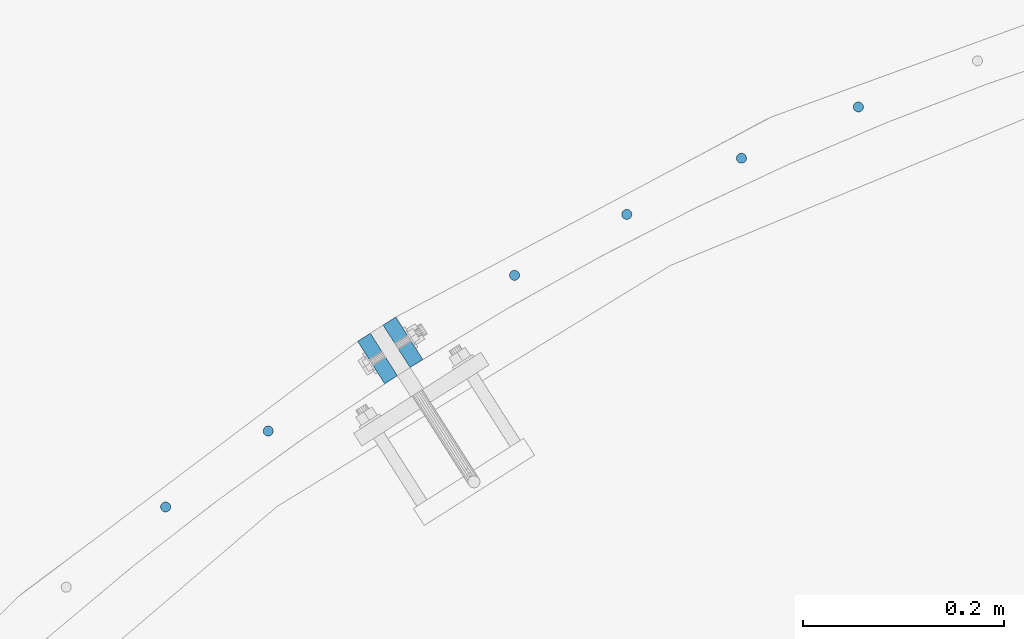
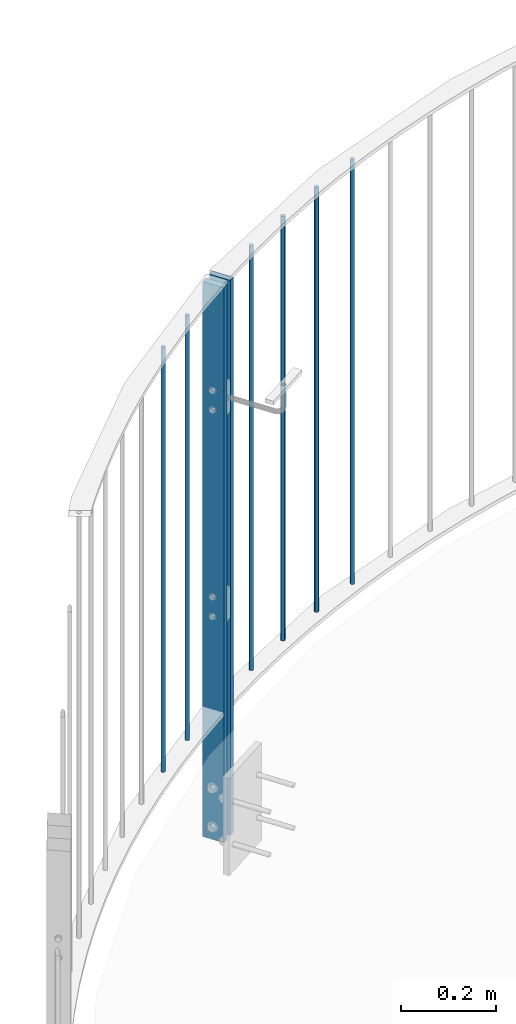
# One storey, part 70 of 296: 8 columns, 12 openings.
"""IFC2X3 building model written with IfcOpenShell, lengths in millimetres."""

import ifcopenshell
import ifcopenshell.guid

model = None  # the IFC model being written
_history = None  # IfcOwnerHistory: only IFC2X3 demands one
_inside = {}  # id of a spatial element -> (the spatial element, [elements in it])
_under = {}  # id of a project, library or spatial element -> (it, [spatial elements below it])
_declared = {}  # id of a project -> (the project, [libraries it declares])
_typed = {}  # id of a type object -> (the type object, [elements of that type])
_made_of = {}  # id of a material, layer set ... -> (it, [elements and type objects made of it])


def new_model(schema):
    """Start an empty IFC model of exactly this schema.

    Asked for "IFC4X3", IfcOpenShell would pick the latest addendum, in which some entities
    have other attributes; the version numbers below select the first issue.
    IFC2X3 requires an IfcOwnerHistory on every rooted entity: one is made here for all.
    """
    global model, _history
    if schema == "IFC4X3":
        model = ifcopenshell.file(schema_version=(4, 3, 0, 0))
    else:
        model = ifcopenshell.file(schema=schema)
    _inside.clear()
    _under.clear()
    _declared.clear()
    _typed.clear()
    _made_of.clear()
    _history = None
    if model.schema == "IFC2X3":
        org = make("IfcOrganization", Name="unknown")
        user = make(
            "IfcPersonAndOrganization",
            ThePerson=make("IfcPerson", FamilyName="unknown"),
            TheOrganization=org,
        )
        app = make(
            "IfcApplication",
            ApplicationDeveloper=org,
            Version="unknown",
            ApplicationFullName="unknown",
            ApplicationIdentifier="unknown",
        )
        _history = make(
            "IfcOwnerHistory",
            OwningUser=user,
            OwningApplication=app,
            ChangeAction="ADDED",
            CreationDate=0,
        )
    return model


def make(cls, **values):
    """One entity of the class cls with the attributes given. An attribute that is None is left unset."""
    return model.create_entity(
        cls, **{name: value for name, value in values.items() if value is not None}
    )


def entity(cls, *values):
    """Any entity or typed value of the class cls, its attributes in the order of the schema. None: left unset."""
    e = model.create_entity(cls)
    for i, value in enumerate(values):
        if value is not None:
            e[i] = value
    return e


def rooted(cls, **values):
    """An entity with a GlobalId (a new one), such as an element, a storey or a relation."""
    return make(cls, GlobalId=ifcopenshell.guid.new(), OwnerHistory=_history, **values)


def si_unit(unit_type, name, prefix=None):
    """IfcSIUnit, for example si_unit("LENGTHUNIT", "METRE", prefix="MILLI")."""
    return make("IfcSIUnit", UnitType=unit_type, Prefix=prefix, Name=name)


def converted_unit(unit_type, name, factor, base, dimensions=None, offset=None):
    """IfcConversionBasedUnit, such as the inch: factor (a typed value) times the base unit."""
    return make(
        "IfcConversionBasedUnit"
        if offset is None
        else "IfcConversionBasedUnitWithOffset",
        ConversionOffset=offset,
        Dimensions=None
        if dimensions is None
        else entity("IfcDimensionalExponents", *dimensions),
        UnitType=unit_type,
        Name=name,
        ConversionFactor=make(
            "IfcMeasureWithUnit", ValueComponent=factor, UnitComponent=base
        ),
    )


def assignment(units):
    """IfcUnitAssignment: the units of a project."""
    return None if units is None else make("IfcUnitAssignment", Units=units)


def point(xyz):
    """IfcCartesianPoint."""
    return None if xyz is None else make("IfcCartesianPoint", Coordinates=xyz)


def direction(xyz):
    """IfcDirection."""
    return None if xyz is None else make("IfcDirection", DirectionRatios=xyz)


def frame(location, z_axis=None, x_axis=None):
    """IfcAxis2Placement3D, a coordinate frame: its origin and axes. An axis left out is left unset."""
    return make(
        "IfcAxis2Placement3D",
        Location=point(location),
        Axis=direction(z_axis),
        RefDirection=direction(x_axis),
    )


def frame_2d(location, x_axis=None):
    """IfcAxis2Placement2D, a coordinate frame in the plane: its origin and x axis."""
    return make(
        "IfcAxis2Placement2D", Location=point(location), RefDirection=direction(x_axis)
    )


def origin():
    """The frame at (0, 0, 0) with its axes left unset."""
    return frame((0.0, 0.0, 0.0))


def origin_with_axes():
    """The frame at (0, 0, 0) with the z axis (0, 0, 1) and the x axis (1, 0, 0) written out."""
    return frame((0.0, 0.0, 0.0), z_axis=(0.0, 0.0, 1.0), x_axis=(1.0, 0.0, 0.0))


def origin_2d():
    """The frame at (0, 0) in the plane with its x axis left unset."""
    return frame_2d((0.0, 0.0))


def place(relative_to, where):
    """IfcLocalPlacement: puts the frame where relative to a parent placement (None: the world)."""
    return make(
        "IfcLocalPlacement", PlacementRelTo=relative_to, RelativePlacement=where
    )


def context(
    kind, dimensions, precision=None, world=None, true_north=None, identifier=None
):
    """IfcGeometricRepresentationContext, for example the 3D "Model" context."""
    return make(
        "IfcGeometricRepresentationContext",
        ContextIdentifier=identifier,
        ContextType=kind,
        CoordinateSpaceDimension=dimensions,
        Precision=precision,
        WorldCoordinateSystem=world,
        TrueNorth=true_north,
    )


def project(units=None, contexts=None):
    """IfcProject with its units and contexts."""
    return rooted(
        "IfcProject",
        Name="project",
        RepresentationContexts=contexts,
        UnitsInContext=assignment(units),
    )


def spatial(cls, under=None, at=None, **own):
    """A site, building, storey or space (cls), placed at a placement, below another one or the project."""
    s = rooted(cls, ObjectPlacement=at, **own)
    if under is not None:
        _under.setdefault(under.id(), (under, []))[1].append(s)
    return s


def profile(cls, at=None, kind="AREA", **sizes):
    """A parametric profile (cls). Its sizes go by their IFC names, for example OverallWidth=200.0."""
    return make(cls, ProfileType=kind, Position=at, **sizes)


def rectangle(**sizes):
    """IfcRectangleProfileDef."""
    return profile("IfcRectangleProfileDef", **sizes)


def circle(**sizes):
    """IfcCircleProfileDef."""
    return profile("IfcCircleProfileDef", **sizes)


def extrude(swept, where, along, depth):
    """IfcExtrudedAreaSolid: the profile swept, set in the frame where, extruded along a direction by depth."""
    return make(
        "IfcExtrudedAreaSolid",
        SweptArea=swept,
        Position=where,
        ExtrudedDirection=direction(along),
        Depth=depth,
    )


def shape(context_of_items, identifier, shape_type, items):
    """IfcShapeRepresentation: the items that make up one representation, for example the "Body"."""
    return make(
        "IfcShapeRepresentation",
        ContextOfItems=context_of_items,
        RepresentationIdentifier=identifier,
        RepresentationType=shape_type,
        Items=items,
    )


def material(Name=None, Category=None):
    """IfcMaterial."""
    return make("IfcMaterial", Name=Name, Category=Category)


def made_of(thing, what):
    """Note that an element or type object is made of a material, layer set ...; save() writes the relation."""
    if what is not None:
        _made_of.setdefault(what.id(), (what, []))[1].append(thing)
    return thing


def element(
    cls,
    number,
    at=None,
    inside=None,
    cuts=None,
    type_object=None,
    material=None,
    context=None,
    identifier="Body",
    shape_type=None,
    held_by="IfcProductDefinitionShape",
    body=None,
    shapes=None,
    **own,
):
    """One element of the class cls, such as IfcWall. Its Tag is "e" and its number.

    at: its placement. inside: the storey or other place that contains it. cuts: it is an
    opening in that element (IfcRelVoidsElement). A single representation is given by context,
    identifier, shape_type and body (its items); several are given by shapes. held_by: the class
    of the entity that holds the representations. save() writes the other relations.
    """
    e = rooted(cls, Tag="e%d" % number, ObjectPlacement=at, **own)
    if body is not None:
        shapes = [shape(context, identifier, shape_type, body)]
    if shapes is not None:
        e.Representation = make(held_by, Representations=shapes)
    if inside is not None:
        _inside.setdefault(inside.id(), (inside, []))[1].append(e)
    if cuts is not None:
        rooted(
            "IfcRelVoidsElement", RelatingBuildingElement=cuts, RelatedOpeningElement=e
        )
    if type_object is not None:
        _typed.setdefault(type_object.id(), (type_object, []))[1].append(e)
    return made_of(e, material)


def aggregate(whole, parts):
    """IfcRelAggregates: a whole, such as a stair, and the parts it consists of."""
    return rooted("IfcRelAggregates", RelatingObject=whole, RelatedObjects=parts)


def save(model, path):
    """Write the relations noted so far, then the file.

    IfcRelAggregates (storeys below a building ...), IfcRelContainedInSpatialStructure (elements
    in a storey), IfcRelDefinesByType, IfcRelAssociatesMaterial and IfcRelDeclares: one each for
    every whole, place, type object, material and project.
    """
    for whole, parts in _under.values():
        aggregate(whole, parts)
    for where, things in _inside.values():
        rooted(
            "IfcRelContainedInSpatialStructure",
            RelatedElements=things,
            RelatingStructure=where,
        )
    for kind, things in _typed.values():
        rooted("IfcRelDefinesByType", RelatedObjects=things, RelatingType=kind)
    for what, things in _made_of.values():
        rooted("IfcRelAssociatesMaterial", RelatedObjects=things, RelatingMaterial=what)
    for by, libraries in _declared.values():
        rooted("IfcRelDeclares", RelatingContext=by, RelatedDefinitions=libraries)
    model.write(path)


model = new_model("IFC2X3")

# Units and contexts
model_context = context("Model", 3, precision=1e-09, world=origin_with_axes())
ifc_project = project(units=[si_unit("LENGTHUNIT", "METRE", prefix="MILLI"), si_unit("AREAUNIT", "SQUARE_METRE"), si_unit("VOLUMEUNIT", "CUBIC_METRE"), converted_unit("PLANEANGLEUNIT", "DEGREE", entity("IfcPlaneAngleMeasure", 0.01745329), si_unit("PLANEANGLEUNIT", "RADIAN"), dimensions=[0, 0, 0, 0, 0, 0, 0])], contexts=[model_context])

# Site, building, storey
site_placement = place(None, origin_with_axes())
site = spatial("IfcSite", under=ifc_project, at=site_placement, Name="TZD-S?d | Treppenhausgel?nder", CompositionType="ELEMENT")
building_placement = place(site_placement, origin_with_axes())
building = spatial("IfcBuilding", under=site, at=building_placement, Name="Struktur 1", CompositionType="ELEMENT")
storey_placement = place(building_placement, origin_with_axes())
storey = spatial("IfcBuildingStorey", under=building, at=storey_placement, Name="Default Storey", CompositionType="ELEMENT", Elevation=0.0)

# Column, openings
ifc_material = material(Name="S235JR")
column_1_placement = place(None, frame((1331.12504273, 2429.799917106, 11390.001), z_axis=(0.0, 0.0, -1.0), x_axis=(-0.843391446, -0.537299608, 0.0)))
column_1 = element("IfcColumn", 1, at=column_1_placement, inside=storey, material=ifc_material, Name="-", ObjectType="-", context=model_context, shape_type="SweptSolid", body=[
    extrude(rectangle(XDim=15.0, YDim=50.0, at=origin_2d()), origin(), (0.0, 0.0, -1.0), 1424.999),
])
opening_1_placement = place(column_1_placement, frame((-8.0, 0.0, -85.0), z_axis=(1.0, 0.0, 0.0), x_axis=(0.0, -1.0, 0.0)))
element("IfcOpeningElement", 2, at=opening_1_placement, cuts=column_1, ObjectType="Opening", context=model_context, shape_type="SweptSolid", body=[
    extrude(circle(Radius=7.001, at=frame_2d((0.0, 50.0), x_axis=(1.0, 0.0))), origin(), (0.0, 0.0, 1.0), 16.0),
])
opening_2_placement = place(column_1_placement, frame((-8.0, 0.0, -85.0), z_axis=(1.0, 0.0, 0.0), x_axis=(0.0, -1.0, 0.0)))
element("IfcOpeningElement", 3, at=opening_2_placement, cuts=column_1, ObjectType="Opening", context=model_context, shape_type="SweptSolid", body=[
    extrude(circle(Radius=7.001, at=frame_2d((0.0, -50.0), x_axis=(1.0, 0.0))), origin(), (0.0, 0.0, 1.0), 16.0),
])
opening_3_placement = place(column_1_placement, frame((-8.0, 0.0, -1129.999999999), z_axis=(1.0, 0.0, 0.0), x_axis=(0.0, -1.0, 0.0)))
element("IfcOpeningElement", 4, at=opening_3_placement, cuts=column_1, ObjectType="Opening", context=model_context, shape_type="SweptSolid", body=[
    extrude(circle(Radius=5.001, at=frame_2d((0.0, 25.0), x_axis=(1.0, 0.0))), origin(), (0.0, 0.0, 1.0), 16.0),
])
opening_4_placement = place(column_1_placement, frame((-8.0, 0.0, -1129.999999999), z_axis=(1.0, 0.0, 0.0), x_axis=(0.0, -1.0, 0.0)))
element("IfcOpeningElement", 5, at=opening_4_placement, cuts=column_1, ObjectType="Opening", context=model_context, shape_type="SweptSolid", body=[
    extrude(circle(Radius=5.001, at=frame_2d((0.0, -25.0), x_axis=(1.0, 0.0))), origin(), (0.0, 0.0, 1.0), 16.0),
])
opening_5_placement = place(column_1_placement, frame((-8.0, 0.0, -599.999999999), z_axis=(1.0, 0.0, 0.0), x_axis=(0.0, -1.0, 0.0)))
element("IfcOpeningElement", 6, at=opening_5_placement, cuts=column_1, ObjectType="Opening", context=model_context, shape_type="SweptSolid", body=[
    extrude(circle(Radius=5.001, at=frame_2d((0.0, 25.0), x_axis=(1.0, 0.0))), origin(), (0.0, 0.0, 1.0), 16.0),
])
opening_6_placement = place(column_1_placement, frame((-8.0, 0.0, -599.999999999), z_axis=(1.0, 0.0, 0.0), x_axis=(0.0, -1.0, 0.0)))
element("IfcOpeningElement", 7, at=opening_6_placement, cuts=column_1, ObjectType="Opening", context=model_context, shape_type="SweptSolid", body=[
    extrude(circle(Radius=5.001, at=frame_2d((0.0, -25.0), x_axis=(1.0, 0.0))), origin(), (0.0, 0.0, 1.0), 16.0),
])

column_2_placement = place(None, frame((1305.823299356, 2413.680928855, 11390.001), z_axis=(0.0, 0.0, 1.0), x_axis=(0.843391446, 0.537299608, 0.0)))
column_2 = element("IfcColumn", 8, at=column_2_placement, inside=storey, material=ifc_material, Name="-", ObjectType="-", context=model_context, shape_type="SweptSolid", body=[
    extrude(rectangle(XDim=15.0, YDim=50.0, at=origin_2d()), origin(), (0.0, 0.0, 1.0), 1424.999),
])
opening_7_placement = place(column_2_placement, frame((8.0, 0.0, 85.0), z_axis=(-1.0, 0.0, 0.0), x_axis=(0.0, -1.0, 0.0)))
element("IfcOpeningElement", 9, at=opening_7_placement, cuts=column_2, ObjectType="Opening", context=model_context, shape_type="SweptSolid", body=[
    extrude(circle(Radius=7.001, at=frame_2d((0.0, 50.0), x_axis=(1.0, 0.0))), origin(), (0.0, 0.0, 1.0), 16.0),
])
opening_8_placement = place(column_2_placement, frame((8.0, 0.0, 85.0), z_axis=(-1.0, 0.0, 0.0), x_axis=(0.0, -1.0, 0.0)))
element("IfcOpeningElement", 10, at=opening_8_placement, cuts=column_2, ObjectType="Opening", context=model_context, shape_type="SweptSolid", body=[
    extrude(circle(Radius=7.001, at=frame_2d((0.0, -50.0), x_axis=(1.0, 0.0))), origin(), (0.0, 0.0, 1.0), 16.0),
])
opening_9_placement = place(column_2_placement, frame((8.0, 0.0, 1129.999999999), z_axis=(-1.0, 0.0, 0.0), x_axis=(0.0, -1.0, 0.0)))
element("IfcOpeningElement", 11, at=opening_9_placement, cuts=column_2, ObjectType="Opening", context=model_context, shape_type="SweptSolid", body=[
    extrude(circle(Radius=5.001, at=frame_2d((0.0, 25.0), x_axis=(1.0, 0.0))), origin(), (0.0, 0.0, 1.0), 16.0),
])
opening_10_placement = place(column_2_placement, frame((8.0, 0.0, 1129.999999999), z_axis=(-1.0, 0.0, 0.0), x_axis=(0.0, -1.0, 0.0)))
element("IfcOpeningElement", 12, at=opening_10_placement, cuts=column_2, ObjectType="Opening", context=model_context, shape_type="SweptSolid", body=[
    extrude(circle(Radius=5.001, at=frame_2d((0.0, -25.0), x_axis=(1.0, 0.0))), origin(), (0.0, 0.0, 1.0), 16.0),
])
opening_11_placement = place(column_2_placement, frame((8.0, 0.0, 599.999999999), z_axis=(-1.0, 0.0, 0.0), x_axis=(0.0, -1.0, 0.0)))
element("IfcOpeningElement", 13, at=opening_11_placement, cuts=column_2, ObjectType="Opening", context=model_context, shape_type="SweptSolid", body=[
    extrude(circle(Radius=5.001, at=frame_2d((0.0, 25.0), x_axis=(1.0, 0.0))), origin(), (0.0, 0.0, 1.0), 16.0),
])
opening_12_placement = place(column_2_placement, frame((8.0, 0.0, 599.999999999), z_axis=(-1.0, 0.0, 0.0), x_axis=(0.0, -1.0, 0.0)))
element("IfcOpeningElement", 14, at=opening_12_placement, cuts=column_2, ObjectType="Opening", context=model_context, shape_type="SweptSolid", body=[
    extrude(circle(Radius=5.001, at=frame_2d((0.0, -25.0), x_axis=(1.0, 0.0))), origin(), (0.0, 0.0, 1.0), 16.0),
])

# Columns
for number, where, z_axis, x_axis in (
    (15, (1095.113445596, 2266.022423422, 11725.0), (0.0, 0.0, 1.0), (0.422618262, 0.906307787, 0.0)),
    (16, (1197.189451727, 2341.511969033, 11725.0), (0.0, 0.0, 1.0), (0.422618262, 0.906307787, 0.0)),
    (17, (1442.120002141, 2496.374672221, 11725.0), (0.0, 0.0, 1.0), (0.766044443, 0.64278761, 0.0)),
    (18, (1553.675949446, 2556.983690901, 11725.0), (0.0, 0.0, 1.0), (0.766044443, 0.64278761, 0.0)),
    (19, (1667.70425369, 2612.802400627, 11725.0), (0.0, 0.0, 1.0), (0.766044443, 0.64278761, 0.0)),
    (20, (1783.999332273, 2663.730165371, 11725.0), (0.0, 0.0, 1.0), (0.766044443, 0.64278761, 0.0)),
):
    element("IfcColumn", number, at=place(None, frame(where, z_axis=z_axis, x_axis=x_axis)), inside=storey, material=ifc_material, Name="-", ObjectType="-", context=model_context, shape_type="SweptSolid", body=[
        extrude(circle(Radius=5.0, at=origin_2d()), origin(), (0.0, 0.0, 1.0), 1090.0),
    ])

save(model, "model.ifc")
